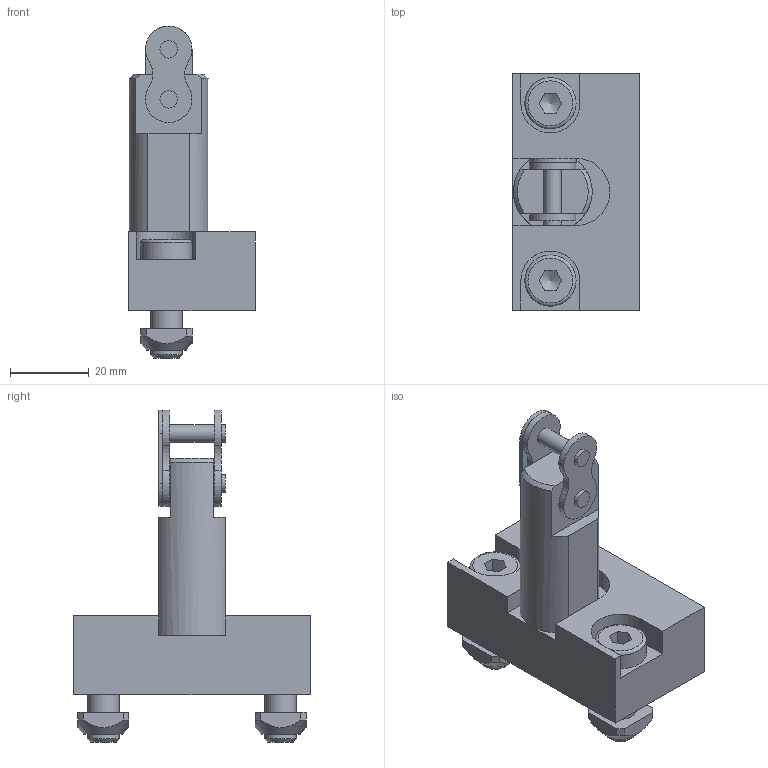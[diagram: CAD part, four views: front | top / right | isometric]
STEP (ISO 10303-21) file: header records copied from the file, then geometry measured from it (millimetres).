
FILE_DESCRIPTION((''),'2;1');
FILE_NAME('C:\Andys Backup Data\WEBSITE\DREAMWEAVER\MiniTec\Products\Lifting_Sliding_Doors\Counterweight_System_Heavy_Duty\CAD\Step\21.0929 FIXING KIT FOR CHAIN SLIDE.stp','2013-11-27T16:18:30',('Admin'),(''),'Autodesk Inventor 2012','Autodesk Inventor 2012','');
FILE_SCHEMA(('AUTOMOTIVE_DESIGN { 1 0 10303 214 1 1 1 1 }'));
Length unit declared in the file: millimetre
Products named in the file (10): 21.0929 FIXING KIT FOR CHAIN SLIDE; 21.1249 M10 X 25; 21.1204  M8 x 25; 21.1351 M8 SQUARE NUT; 21.0925 CHAIN CLAMPING DEVICE S; 29.0308 CONNECTING LINK 08B; 29.0308 CONNECTING LINK MALE; 29.0308 CONNECTING LINK FEMALE; 29.0308 CONNECTING LINK CLIP
Assembly tree (11 placements, depth 3):
  21.0929 FIXING KIT FOR CHAIN SLIDE
    21.0929 FIXING KIT FOR CHAIN SLIDE
    21.1249 M10 X 25
    21.1204  M8 x 25  x2
    21.1351 M8 SQUARE NUT  x2
    21.0925 CHAIN CLAMPING DEVICE S
    29.0308 CONNECTING LINK 08B
      29.0308 CONNECTING LINK MALE
      29.0308 CONNECTING LINK FEMALE
      29.0308 CONNECTING LINK CLIP
Bounding box: 32 x 60 x 84.25 mm (x, y, z)
Volume: 48888.3 mm3; surface area: 20371.4 mm2
Topology: 10 solids, 10 shells, 172 faces, 397 edges, 254 vertices
Faces by surface type: plane 90, cylinder 41, cone 38, torus 3
Full cylindrical faces by diameter (mm): 4.45 x7, 8 x4, 8.376 x1, 8.5 x2, 10 x1, 10.5 x1, 13 x2, 16 x1, 18 x1
Entity records: 4164 total; most frequent: DIRECTION 702, CARTESIAN_POINT 699, ORIENTED_EDGE 554, AXIS2_PLACEMENT_3D 282, EDGE_CURVE 277, EDGE_LOOP 220, VERTEX_POINT 207, FACE_OUTER_BOUND 146
